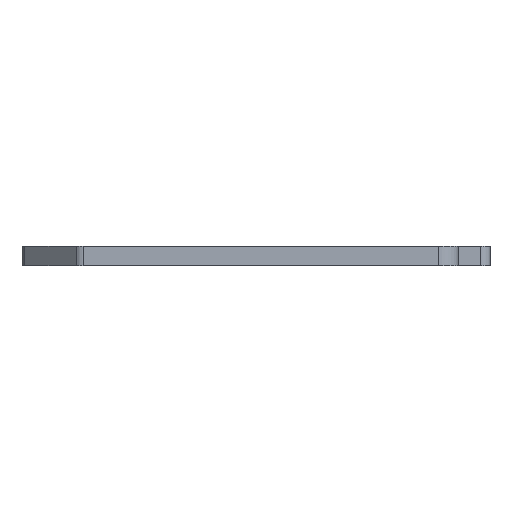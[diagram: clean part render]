
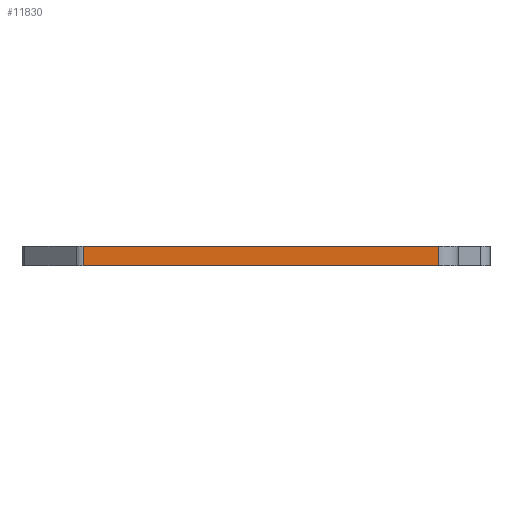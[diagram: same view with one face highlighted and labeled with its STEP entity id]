
A CAD part, left-side view. The second image highlights one B-rep face of the part: STEP entity #11830.
In plain terms, the highlighted planar face has unit normal (-1, 0, 0).
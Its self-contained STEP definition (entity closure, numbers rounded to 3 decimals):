
#890=CARTESIAN_POINT('',(-54.25,35.036,0.));
#900=VERTEX_POINT('',#890);
#930=CARTESIAN_POINT('',(-54.25,35.036,0.));
#940=DIRECTION('',(0.,-1.,0.));
#950=VECTOR('',#940,1.);
#960=LINE('',#930,#950);
#970=CARTESIAN_POINT('',(-54.25,-0.8,0.));
#980=VERTEX_POINT('',#970);
#990=EDGE_CURVE('',#900,#980,#960,.T.);
#5850=CARTESIAN_POINT('',(-54.25,-0.8,2.));
#5860=VERTEX_POINT('',#5850);
#5890=CARTESIAN_POINT('',(-54.25,35.036,2.));
#5900=DIRECTION('',(0.,-1.,0.));
#5910=VECTOR('',#5900,1.);
#5920=LINE('',#5890,#5910);
#5930=CARTESIAN_POINT('',(-54.25,35.036,2.));
#5940=VERTEX_POINT('',#5930);
#5950=EDGE_CURVE('',#5940,#5860,#5920,.T.);
#11570=CARTESIAN_POINT('',(-54.25,35.036,0.));
#11580=DIRECTION('',(0.,0.,1.));
#11590=VECTOR('',#11580,1.);
#11600=LINE('',#11570,#11590);
#11610=EDGE_CURVE('',#900,#5940,#11600,.T.);
#11670=CARTESIAN_POINT('',(-54.25,-0.8,0.));
#11680=DIRECTION('',(-1.,0.,0.));
#11690=DIRECTION('',(0.,1.,0.));
#11700=AXIS2_PLACEMENT_3D('',#11670,#11680,#11690);
#11710=PLANE('',#11700);
#11720=ORIENTED_EDGE('',*,*,#11610,.F.);
#11730=ORIENTED_EDGE('',*,*,#5950,.F.);
#11740=CARTESIAN_POINT('',(-54.25,-0.8,0.));
#11750=DIRECTION('',(0.,0.,1.));
#11760=VECTOR('',#11750,1.);
#11770=LINE('',#11740,#11760);
#11780=EDGE_CURVE('',#980,#5860,#11770,.T.);
#11790=ORIENTED_EDGE('',*,*,#11780,.T.);
#11800=ORIENTED_EDGE('',*,*,#990,.T.);
#11810=EDGE_LOOP('',(#11800,#11790,#11730,#11720));
#11820=FACE_OUTER_BOUND('',#11810,.T.);
#11830=ADVANCED_FACE('',(#11820),#11710,.T.);
